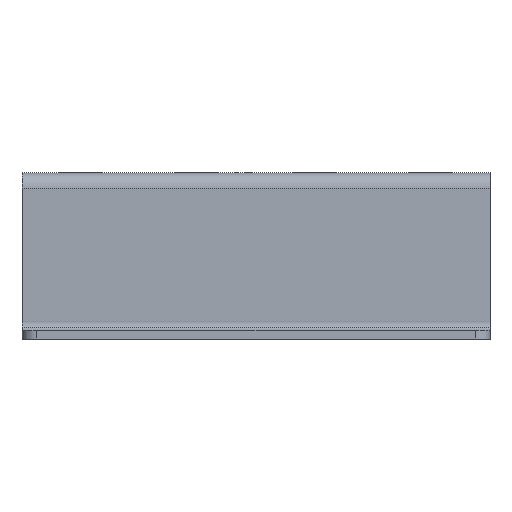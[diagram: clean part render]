
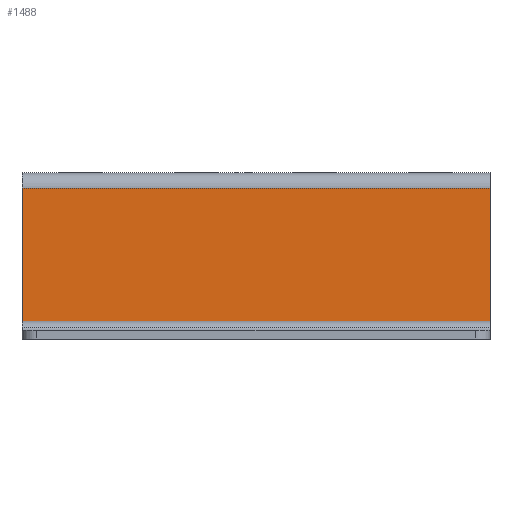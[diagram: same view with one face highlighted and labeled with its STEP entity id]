
A CAD part, top view. The second image highlights one B-rep face of the part: STEP entity #1488.
In plain terms, the highlighted planar face has unit normal (0, 0, 1).
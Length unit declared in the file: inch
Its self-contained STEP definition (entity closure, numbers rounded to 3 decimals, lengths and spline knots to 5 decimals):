
#15 = VECTOR ( 'NONE', #2266, 39.37008 ) ;
#19 = LINE ( 'NONE', #2253, #15 ) ;
#37 = VECTOR ( 'NONE', #2302, 39.37008 ) ;
#42 = LINE ( 'NONE', #2295, #37 ) ;
#123 = FACE_OUTER_BOUND ( 'NONE', #788, .T. ) ;
#275 = CARTESIAN_POINT ( 'NONE',  ( 1.9685, 1.33, 0.072 ) ) ;
#277 = PLANE ( 'NONE',  #1093 ) ;
#280 = DIRECTION ( 'NONE',  ( 0., 0., -1. ) ) ;
#281 = DIRECTION ( 'NONE',  ( -1., 0., 0. ) ) ;
#544 = CARTESIAN_POINT ( 'NONE',  ( 1.9685, 1.27, 0.072 ) ) ;
#548 = CARTESIAN_POINT ( 'NONE',  ( 1.9685, 0.132, 0.072 ) ) ;
#552 = CARTESIAN_POINT ( 'NONE',  ( -1.9685, 1.27, 0.072 ) ) ;
#558 = CARTESIAN_POINT ( 'NONE',  ( -1.9685, 0.132, 0.072 ) ) ;
#601 = VERTEX_POINT ( 'NONE', #558 ) ;
#607 = VERTEX_POINT ( 'NONE', #552 ) ;
#611 = VERTEX_POINT ( 'NONE', #548 ) ;
#615 = VERTEX_POINT ( 'NONE', #544 ) ;
#788 = EDGE_LOOP ( 'NONE', ( #1367, #1368, #1369, #1370 ) ) ;
#902 = EDGE_CURVE ( 'NONE', #611, #601, #1774, .T. ) ;
#903 = EDGE_CURVE ( 'NONE', #615, #607, #1737, .T. ) ;
#945 = EDGE_CURVE ( 'NONE', #615, #611, #19, .T. ) ;
#960 = EDGE_CURVE ( 'NONE', #607, #601, #42, .T. ) ;
#1093 = AXIS2_PLACEMENT_3D ( 'NONE', #275, #280, #281 ) ;
#1367 = ORIENTED_EDGE ( 'NONE', *, *, #960, .T. ) ;
#1368 = ORIENTED_EDGE ( 'NONE', *, *, #902, .F. ) ;
#1369 = ORIENTED_EDGE ( 'NONE', *, *, #945, .F. ) ;
#1370 = ORIENTED_EDGE ( 'NONE', *, *, #903, .T. ) ;
#1488 = ADVANCED_FACE ( 'NONE', ( #123 ), #277, .F. ) ;
#1737 = LINE ( 'NONE', #2146, #1776 ) ;
#1774 = LINE ( 'NONE', #2158, #1775 ) ;
#1775 = VECTOR ( 'NONE', #2159, 39.37008 ) ;
#1776 = VECTOR ( 'NONE', #2161, 39.37008 ) ;
#2146 = CARTESIAN_POINT ( 'NONE',  ( 1.9685, 1.27, 0.072 ) ) ;
#2158 = CARTESIAN_POINT ( 'NONE',  ( 1.9685, 0.132, 0.072 ) ) ;
#2159 = DIRECTION ( 'NONE',  ( -1., 0., 0. ) ) ;
#2161 = DIRECTION ( 'NONE',  ( -1., 0., 0. ) ) ;
#2253 = CARTESIAN_POINT ( 'NONE',  ( 1.9685, 1.33, 0.072 ) ) ;
#2266 = DIRECTION ( 'NONE',  ( 0., -1., 0. ) ) ;
#2295 = CARTESIAN_POINT ( 'NONE',  ( -1.9685, 1.33, 0.072 ) ) ;
#2302 = DIRECTION ( 'NONE',  ( 0., -1., 0. ) ) ;
